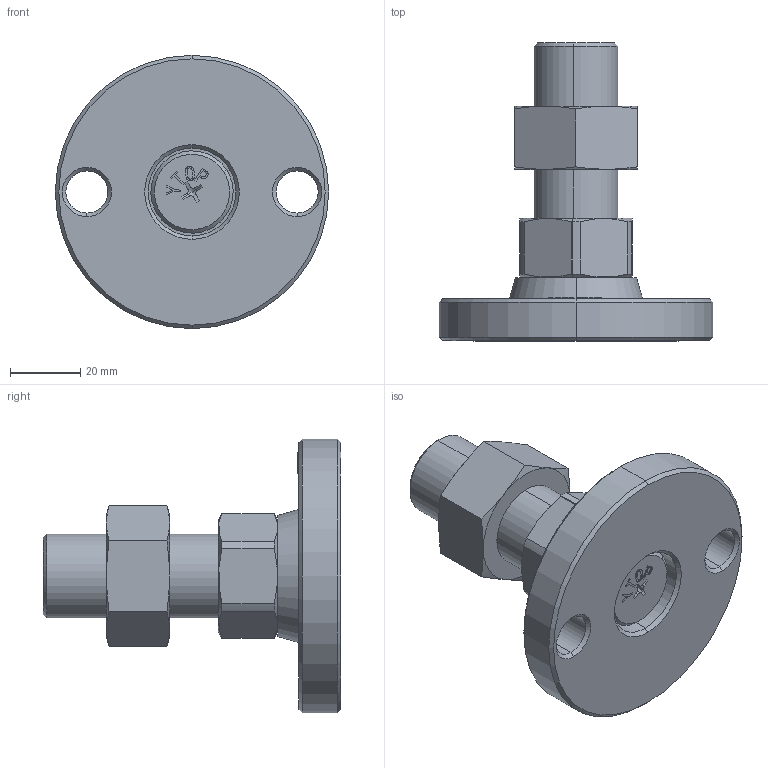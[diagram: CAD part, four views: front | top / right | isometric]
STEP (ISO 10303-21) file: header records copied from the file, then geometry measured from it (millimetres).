
FILE_DESCRIPTION (( 'STEP AP203' ), '1' );
FILE_NAME ('KL-80-2450-P.STEP', '2020-09-10T02:25:40', ( '' ), ( '' ), 'SwSTEP 2.0', 'SolidWorks 2016', '' );
FILE_SCHEMA (( 'CONFIG_CONTROL_DESIGN' ));
Length unit declared in the file: millimetre
Products named in the file (5): 螺丝平底十字带商标M10系列_M10X14; 脚垫调节六角螺母M24; KL-80-0.1 KL80菁釱; KL-80-2450-P; 眻芛蹟邡M24炵蹈_M24X50
Assembly tree (4 placements, depth 2):
  KL-80-2450-P
    KL-80-0.1 KL80菁釱
    眻芛蹟邡M24炵蹈_M24X50
    螺丝平底十字带商标M10系列_M10X14
    脚垫调节六角螺母M24
Bounding box: 78 x 85 x 78 mm (x, y, z)
Volume: 108053.2 mm3; surface area: 27889.2 mm2
Topology: 4 solids, 4 shells, 210 faces, 511 edges, 324 vertices
Faces by surface type: plane 101, cone 52, cylinder 33, bspline 24
Entity records: 8380 total; most frequent: CARTESIAN_POINT 3120, ORIENTED_EDGE 1014, DIRECTION 903, EDGE_CURVE 507, VERTEX_POINT 324, AXIS2_PLACEMENT_3D 307, VECTOR 289, LINE 289
